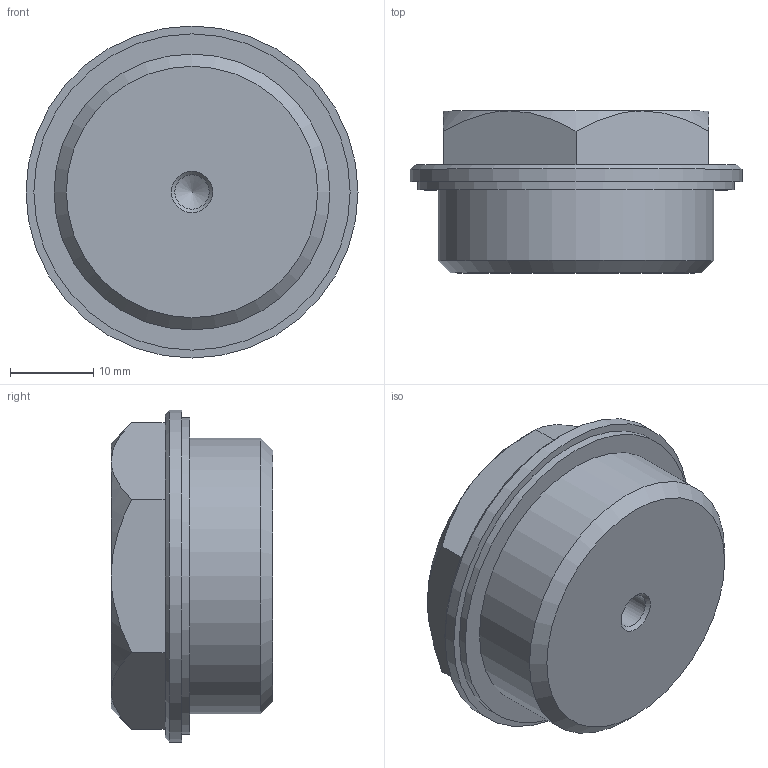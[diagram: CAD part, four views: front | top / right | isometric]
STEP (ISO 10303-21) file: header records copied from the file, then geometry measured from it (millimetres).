
FILE_DESCRIPTION( ( 'STEP AP203' ), '1' );
FILE_NAME( 'C:/Temp/Ganter_Step_05_03_2020/data/3_5/gn742/gn742_1/Threaded plug GN 742-40-G1-ESS-1.stp', '2020-03-12T13:39:09', ( 'License CC BY-ND 4.0' ), ( 'CADENAS' ), ' ', 'PARTsolutions', ' ' );
FILE_SCHEMA( ( 'CONFIG_CONTROL_DESIGN' ) );
Length unit declared in the file: millimetre
Products named in the file (1): _Threaded plug GN 742-40-G1-ESS-1
Bounding box: 40 x 19.5 x 40 mm (x, y, z)
Volume: 17701.3 mm3; surface area: 4655.7 mm2
Topology: 1 solids, 1 shells, 52 faces, 125 edges, 80 vertices
Faces by surface type: plane 38, cone 10, cylinder 4
Full cylindrical faces by diameter (mm): 4.134 x1, 33.249 x1, 38.1 x1, 40 x1
Entity records: 1545 total; most frequent: CARTESIAN_POINT 333, ORIENTED_EDGE 232, DIRECTION 227, EDGE_CURVE 116, LINE 87, VECTOR 87, VERTEX_POINT 80, AXIS2_PLACEMENT_3D 70
